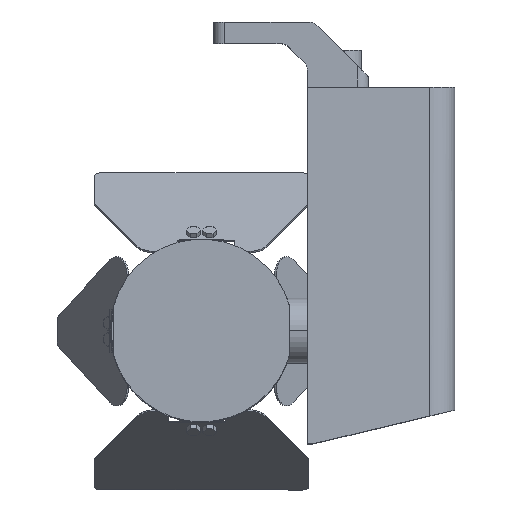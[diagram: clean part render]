
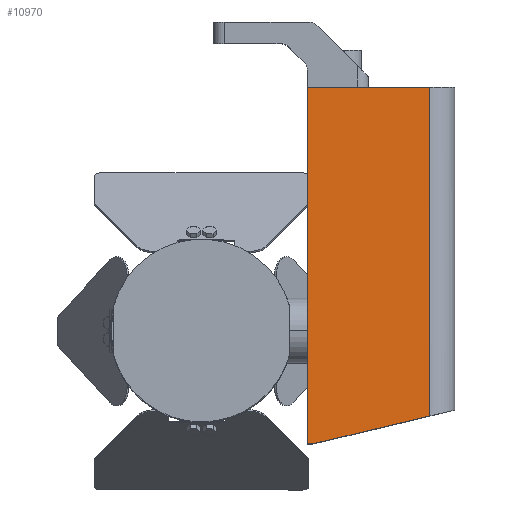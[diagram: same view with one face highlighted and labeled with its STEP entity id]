
A CAD part, top view. The second image highlights one B-rep face of the part: STEP entity #10970.
In plain terms, the highlighted planar face has unit normal (0.037, 0, 0.999).
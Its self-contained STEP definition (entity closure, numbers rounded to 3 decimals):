
#960 = CARTESIAN_POINT ( 'NONE',  ( 9.3, -101.8, 37.945 ) ) ;
#1056 = LINE ( 'NONE', #10815, #5983 ) ;
#1574 = EDGE_CURVE ( 'NONE', #5456, #2214, #1056, .T. ) ;
#1636 = CARTESIAN_POINT ( 'NONE',  ( 65.542, 112., 35.871 ) ) ;
#1906 = FACE_OUTER_BOUND ( 'NONE', #6549, .T. ) ;
#2214 = VERTEX_POINT ( 'NONE', #6387 ) ;
#2394 = LINE ( 'NONE', #5706, #7173 ) ;
#2424 = DIRECTION ( 'NONE',  ( -0.999, 0., 0.037 ) ) ;
#2458 = ORIENTED_EDGE ( 'NONE', *, *, #1574, .F. ) ;
#2484 = ORIENTED_EDGE ( 'NONE', *, *, #9876, .T. ) ;
#2692 = VERTEX_POINT ( 'NONE', #1636 ) ;
#3083 = CARTESIAN_POINT ( 'NONE',  ( 9.3, 112., 37.945 ) ) ;
#3311 = VECTOR ( 'NONE', #4323, 1000. ) ;
#3660 = LINE ( 'NONE', #6590, #3311 ) ;
#4323 = DIRECTION ( 'NONE',  ( -0.999, 0., 0.037 ) ) ;
#5351 = ORIENTED_EDGE ( 'NONE', *, *, #14825, .F. ) ;
#5456 = VERTEX_POINT ( 'NONE', #10555 ) ;
#5706 = CARTESIAN_POINT ( 'NONE',  ( 9.3, -52., 37.945 ) ) ;
#5983 = VECTOR ( 'NONE', #2424, 1000. ) ;
#6355 = LINE ( 'NONE', #13775, #10021 ) ;
#6387 = CARTESIAN_POINT ( 'NONE',  ( 9.3, -52., 37.945 ) ) ;
#6549 = EDGE_LOOP ( 'NONE', ( #5351, #2484, #11988, #11830, #2458 ) ) ;
#6590 = CARTESIAN_POINT ( 'NONE',  ( 9.3, 112., 37.945 ) ) ;
#7173 = VECTOR ( 'NONE', #11697, 1000. ) ;
#7864 = CARTESIAN_POINT ( 'NONE',  ( 65.542, -39.161, 35.871 ) ) ;
#7948 = DIRECTION ( 'NONE',  ( 0., 1., 0. ) ) ;
#8126 = EDGE_CURVE ( 'NONE', #2692, #14056, #3660, .T. ) ;
#9234 = DIRECTION ( 'NONE',  ( -0.999, 0., 0.037 ) ) ;
#9415 = DIRECTION ( 'NONE',  ( -0.972, -0.232, 0.036 ) ) ;
#9675 = LINE ( 'NONE', #11626, #14068 ) ;
#9821 = VERTEX_POINT ( 'NONE', #7864 ) ;
#9876 = EDGE_CURVE ( 'NONE', #9821, #2692, #6355, .T. ) ;
#10021 = VECTOR ( 'NONE', #7948, 1000. ) ;
#10445 = PLANE ( 'NONE',  #10770 ) ;
#10555 = CARTESIAN_POINT ( 'NONE',  ( 11.8, -52., 37.853 ) ) ;
#10770 = AXIS2_PLACEMENT_3D ( 'NONE', #960, #12821, #9234 ) ;
#10815 = CARTESIAN_POINT ( 'NONE',  ( 77.008, -52., 35.448 ) ) ;
#10970 = ADVANCED_FACE ( 'NONE', ( #1906 ), #10445, .F. ) ;
#11626 = CARTESIAN_POINT ( 'NONE',  ( 15.954, -51.008, 37.7 ) ) ;
#11697 = DIRECTION ( 'NONE',  ( 0., -1., 0. ) ) ;
#11830 = ORIENTED_EDGE ( 'NONE', *, *, #13057, .T. ) ;
#11988 = ORIENTED_EDGE ( 'NONE', *, *, #8126, .T. ) ;
#12821 = DIRECTION ( 'NONE',  ( -0.037, 0., -0.999 ) ) ;
#13057 = EDGE_CURVE ( 'NONE', #14056, #2214, #2394, .T. ) ;
#13775 = CARTESIAN_POINT ( 'NONE',  ( 65.542, -101.8, 35.871 ) ) ;
#14056 = VERTEX_POINT ( 'NONE', #3083 ) ;
#14068 = VECTOR ( 'NONE', #9415, 1000. ) ;
#14825 = EDGE_CURVE ( 'NONE', #9821, #5456, #9675, .T. ) ;
